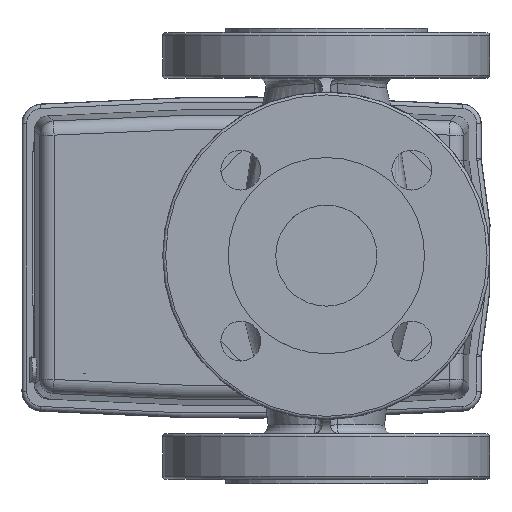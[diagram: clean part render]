
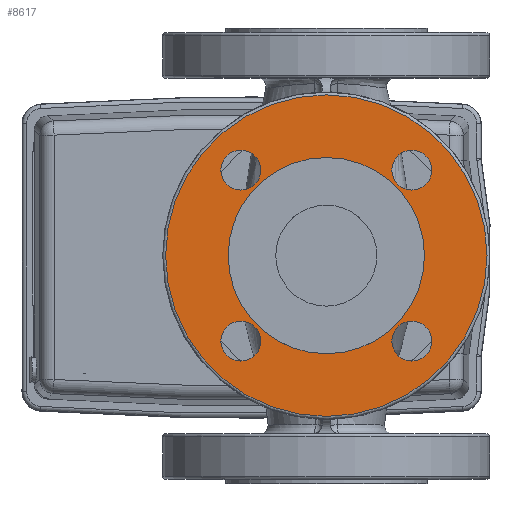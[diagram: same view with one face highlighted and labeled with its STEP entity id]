
A CAD part, top view. The second image highlights one B-rep face of the part: STEP entity #8617.
In plain terms, the highlighted planar face has unit normal (0, 0, 1).
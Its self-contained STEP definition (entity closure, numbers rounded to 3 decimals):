
#2462=ORIENTED_EDGE('',*,*,#3450,.T.);
#2463=ORIENTED_EDGE('',*,*,#3448,.F.);
#2464=ORIENTED_EDGE('',*,*,#3480,.T.);
#2465=ORIENTED_EDGE('',*,*,#3481,.T.);
#2466=ORIENTED_EDGE('',*,*,#3482,.T.);
#2467=ORIENTED_EDGE('',*,*,#3483,.T.);
#3448=EDGE_CURVE('',#4074,#4074,#4473,.T.);
#3450=EDGE_CURVE('',#4076,#4076,#4475,.T.);
#3480=EDGE_CURVE('',#4097,#4097,#4489,.T.);
#3481=EDGE_CURVE('',#4098,#4098,#4490,.T.);
#3482=EDGE_CURVE('',#4099,#4099,#4491,.T.);
#3483=EDGE_CURVE('',#4100,#4100,#4492,.T.);
#4074=VERTEX_POINT('',#12840);
#4076=VERTEX_POINT('',#12845);
#4097=VERTEX_POINT('',#13016);
#4098=VERTEX_POINT('',#13018);
#4099=VERTEX_POINT('',#13020);
#4100=VERTEX_POINT('',#13022);
#4473=CIRCLE('',#9276,34.5);
#4475=CIRCLE('',#9279,56.5);
#4489=CIRCLE('',#9305,7.);
#4490=CIRCLE('',#9306,7.);
#4491=CIRCLE('',#9307,7.);
#4492=CIRCLE('',#9308,7.);
#4940=EDGE_LOOP('',(#2462));
#4941=EDGE_LOOP('',(#2463));
#4942=EDGE_LOOP('',(#2464));
#4943=EDGE_LOOP('',(#2465));
#4944=EDGE_LOOP('',(#2466));
#4945=EDGE_LOOP('',(#2467));
#5432=FACE_BOUND('',#4940,.T.);
#5433=FACE_BOUND('',#4941,.T.);
#5434=FACE_BOUND('',#4942,.T.);
#5435=FACE_BOUND('',#4943,.T.);
#5436=FACE_BOUND('',#4944,.T.);
#5437=FACE_BOUND('',#4945,.T.);
#5672=PLANE('',#9304);
#8617=ADVANCED_FACE('',(#5432,#5433,#5434,#5435,#5436,#5437),#5672,.T.);
#9276=AXIS2_PLACEMENT_3D('',#12839,#10906,#10907);
#9279=AXIS2_PLACEMENT_3D('',#12844,#10912,#10913);
#9304=AXIS2_PLACEMENT_3D('',#13014,#10970,#10971);
#9305=AXIS2_PLACEMENT_3D('',#13015,#10972,#10973);
#9306=AXIS2_PLACEMENT_3D('',#13017,#10974,#10975);
#9307=AXIS2_PLACEMENT_3D('',#13019,#10976,#10977);
#9308=AXIS2_PLACEMENT_3D('',#13021,#10978,#10979);
#10906=DIRECTION('',(0.,0.,1.));
#10907=DIRECTION('',(-1.,0.,0.));
#10912=DIRECTION('',(0.,0.,1.));
#10913=DIRECTION('',(-1.,0.,0.));
#10970=DIRECTION('',(0.,0.,1.));
#10971=DIRECTION('',(-1.,0.,0.));
#10972=DIRECTION('',(0.,0.,-1.));
#10973=DIRECTION('',(-1.,0.,0.));
#10974=DIRECTION('',(0.,0.,-1.));
#10975=DIRECTION('',(-1.,0.,0.));
#10976=DIRECTION('',(0.,0.,-1.));
#10977=DIRECTION('',(-1.,0.,0.));
#10978=DIRECTION('',(0.,0.,-1.));
#10979=DIRECTION('',(-1.,0.,0.));
#12839=CARTESIAN_POINT('',(0.755,0.055,284.5));
#12840=CARTESIAN_POINT('',(-33.745,0.055,284.5));
#12844=CARTESIAN_POINT('',(0.755,0.055,284.5));
#12845=CARTESIAN_POINT('',(-55.745,0.055,284.5));
#13014=CARTESIAN_POINT('',(9.442,44.135,284.5));
#13015=CARTESIAN_POINT('',(30.807,-29.997,284.5));
#13016=CARTESIAN_POINT('',(23.807,-29.997,284.5));
#13017=CARTESIAN_POINT('',(-29.297,30.107,284.5));
#13018=CARTESIAN_POINT('',(-36.297,30.107,284.5));
#13019=CARTESIAN_POINT('',(30.807,30.107,284.5));
#13020=CARTESIAN_POINT('',(23.807,30.107,284.5));
#13021=CARTESIAN_POINT('',(-29.297,-29.997,284.5));
#13022=CARTESIAN_POINT('',(-36.297,-29.997,284.5));
